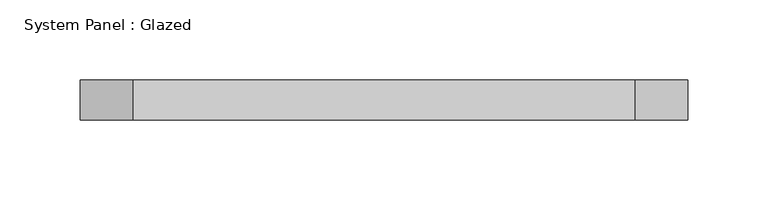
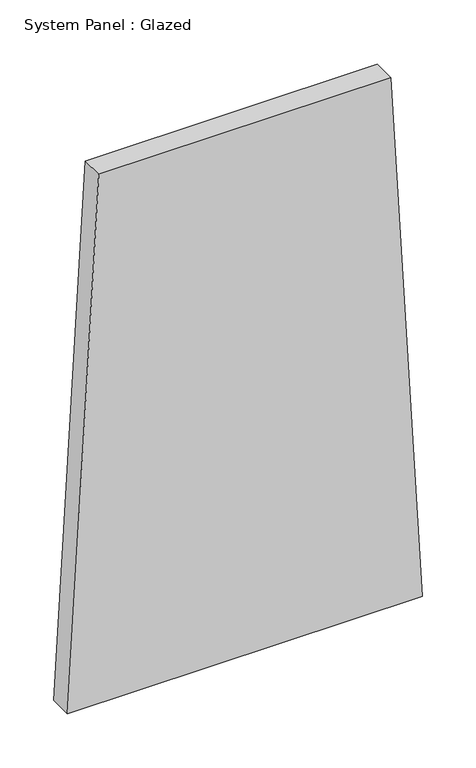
"""IFC4 building model written with IfcOpenShell, lengths in millimetres: plate geometry, System Panel : Glazed."""

import ifcopenshell
import ifcopenshell.guid

model = None  # the IFC model being written
_history = None  # IfcOwnerHistory: only IFC2X3 demands one
_inside = {}  # id of a spatial element -> (the spatial element, [elements in it])
_under = {}  # id of a project, library or spatial element -> (it, [spatial elements below it])
_declared = {}  # id of a project -> (the project, [libraries it declares])
_typed = {}  # id of a type object -> (the type object, [elements of that type])
_made_of = {}  # id of a material, layer set ... -> (it, [elements and type objects made of it])


def new_model(schema):
    """Start an empty IFC model of exactly this schema.

    Asked for "IFC4X3", IfcOpenShell would pick the latest addendum, in which some entities
    have other attributes; the version numbers below select the first issue.
    IFC2X3 requires an IfcOwnerHistory on every rooted entity: one is made here for all.
    """
    global model, _history
    if schema == "IFC4X3":
        model = ifcopenshell.file(schema_version=(4, 3, 0, 0))
    else:
        model = ifcopenshell.file(schema=schema)
    _inside.clear()
    _under.clear()
    _declared.clear()
    _typed.clear()
    _made_of.clear()
    _history = None
    if model.schema == "IFC2X3":
        org = make("IfcOrganization", Name="unknown")
        user = make(
            "IfcPersonAndOrganization",
            ThePerson=make("IfcPerson", FamilyName="unknown"),
            TheOrganization=org,
        )
        app = make(
            "IfcApplication",
            ApplicationDeveloper=org,
            Version="unknown",
            ApplicationFullName="unknown",
            ApplicationIdentifier="unknown",
        )
        _history = make(
            "IfcOwnerHistory",
            OwningUser=user,
            OwningApplication=app,
            ChangeAction="ADDED",
            CreationDate=0,
        )
    return model


def make(cls, **values):
    """One entity of the class cls with the attributes given. An attribute that is None is left unset."""
    return model.create_entity(
        cls, **{name: value for name, value in values.items() if value is not None}
    )


def rooted(cls, **values):
    """An entity with a GlobalId (a new one), such as an element, a storey or a relation."""
    return make(cls, GlobalId=ifcopenshell.guid.new(), OwnerHistory=_history, **values)


def si_unit(unit_type, name, prefix=None):
    """IfcSIUnit, for example si_unit("LENGTHUNIT", "METRE", prefix="MILLI")."""
    return make("IfcSIUnit", UnitType=unit_type, Prefix=prefix, Name=name)


def assignment(units):
    """IfcUnitAssignment: the units of a project."""
    return None if units is None else make("IfcUnitAssignment", Units=units)


def point(xyz):
    """IfcCartesianPoint."""
    return None if xyz is None else make("IfcCartesianPoint", Coordinates=xyz)


def direction(xyz):
    """IfcDirection."""
    return None if xyz is None else make("IfcDirection", DirectionRatios=xyz)


def frame(location, z_axis=None, x_axis=None):
    """IfcAxis2Placement3D, a coordinate frame: its origin and axes. An axis left out is left unset."""
    return make(
        "IfcAxis2Placement3D",
        Location=point(location),
        Axis=direction(z_axis),
        RefDirection=direction(x_axis),
    )


def origin():
    """The frame at (0, 0, 0) with its axes left unset."""
    return frame((0.0, 0.0, 0.0))


def place(relative_to, where):
    """IfcLocalPlacement: puts the frame where relative to a parent placement (None: the world)."""
    return make(
        "IfcLocalPlacement", PlacementRelTo=relative_to, RelativePlacement=where
    )


def context(
    kind, dimensions, precision=None, world=None, true_north=None, identifier=None
):
    """IfcGeometricRepresentationContext, for example the 3D "Model" context."""
    return make(
        "IfcGeometricRepresentationContext",
        ContextIdentifier=identifier,
        ContextType=kind,
        CoordinateSpaceDimension=dimensions,
        Precision=precision,
        WorldCoordinateSystem=world,
        TrueNorth=true_north,
    )


def project(units=None, contexts=None):
    """IfcProject with its units and contexts."""
    return rooted(
        "IfcProject",
        Name="project",
        RepresentationContexts=contexts,
        UnitsInContext=assignment(units),
    )


def spatial(cls, under=None, at=None, **own):
    """A site, building, storey or space (cls), placed at a placement, below another one or the project."""
    s = rooted(cls, ObjectPlacement=at, **own)
    if under is not None:
        _under.setdefault(under.id(), (under, []))[1].append(s)
    return s


def polyline(points):
    """IfcPolyline through the points."""
    return make("IfcPolyline", Points=[point(p) for p in points])


def outline(outer, holes=None, kind="AREA"):
    """IfcArbitraryClosedProfileDef: a profile drawn as a closed curve; with holes, ...WithVoids."""
    if holes is None:
        return make("IfcArbitraryClosedProfileDef", ProfileType=kind, OuterCurve=outer)
    return make(
        "IfcArbitraryProfileDefWithVoids",
        ProfileType=kind,
        OuterCurve=outer,
        InnerCurves=holes,
    )


def extrude(swept, where, along, depth):
    """IfcExtrudedAreaSolid: the profile swept, set in the frame where, extruded along a direction by depth."""
    return make(
        "IfcExtrudedAreaSolid",
        SweptArea=swept,
        Position=where,
        ExtrudedDirection=direction(along),
        Depth=depth,
    )


def shape(context_of_items, identifier, shape_type, items):
    """IfcShapeRepresentation: the items that make up one representation, for example the "Body"."""
    return make(
        "IfcShapeRepresentation",
        ContextOfItems=context_of_items,
        RepresentationIdentifier=identifier,
        RepresentationType=shape_type,
        Items=items,
    )


def source(mapping_origin, context_of_items, identifier, shape_type, items):
    """IfcRepresentationMap: a shape defined once, which mapped items show again and again."""
    return make(
        "IfcRepresentationMap",
        MappingOrigin=mapping_origin,
        MappedRepresentation=shape(context_of_items, identifier, shape_type, items),
    )


def transform(
    local_origin,
    x_axis=None,
    y_axis=None,
    z_axis=None,
    scale=None,
    scale2=None,
    scale3=None,
    uniform=True,
):
    """IfcCartesianTransformationOperator3D, or its non-uniform kind. x_axis, y_axis, z_axis: its Axis1, 2, 3."""
    if uniform:
        return make(
            "IfcCartesianTransformationOperator3D",
            Axis1=direction(x_axis),
            Axis2=direction(y_axis),
            LocalOrigin=point(local_origin),
            Scale=scale,
            Axis3=direction(z_axis),
        )
    return make(
        "IfcCartesianTransformationOperator3DnonUniform",
        Axis1=direction(x_axis),
        Axis2=direction(y_axis),
        LocalOrigin=point(local_origin),
        Scale=scale,
        Axis3=direction(z_axis),
        Scale2=scale2,
        Scale3=scale3,
    )


def mapped(mapping_source, mapping_target):
    """IfcMappedItem: shows the shape of a source again, moved by a transform."""
    return make(
        "IfcMappedItem", MappingSource=mapping_source, MappingTarget=mapping_target
    )


def made_of(thing, what):
    """Note that an element or type object is made of a material, layer set ...; save() writes the relation."""
    if what is not None:
        _made_of.setdefault(what.id(), (what, []))[1].append(thing)
    return thing


def element(
    cls,
    number,
    at=None,
    inside=None,
    cuts=None,
    type_object=None,
    material=None,
    context=None,
    identifier="Body",
    shape_type=None,
    held_by="IfcProductDefinitionShape",
    body=None,
    shapes=None,
    **own,
):
    """One element of the class cls, such as IfcWall. Its Tag is "e" and its number.

    at: its placement. inside: the storey or other place that contains it. cuts: it is an
    opening in that element (IfcRelVoidsElement). A single representation is given by context,
    identifier, shape_type and body (its items); several are given by shapes. held_by: the class
    of the entity that holds the representations. save() writes the other relations.
    """
    e = rooted(cls, Tag="e%d" % number, ObjectPlacement=at, **own)
    if body is not None:
        shapes = [shape(context, identifier, shape_type, body)]
    if shapes is not None:
        e.Representation = make(held_by, Representations=shapes)
    if inside is not None:
        _inside.setdefault(inside.id(), (inside, []))[1].append(e)
    if cuts is not None:
        rooted(
            "IfcRelVoidsElement", RelatingBuildingElement=cuts, RelatedOpeningElement=e
        )
    if type_object is not None:
        _typed.setdefault(type_object.id(), (type_object, []))[1].append(e)
    return made_of(e, material)


def aggregate(whole, parts):
    """IfcRelAggregates: a whole, such as a stair, and the parts it consists of."""
    return rooted("IfcRelAggregates", RelatingObject=whole, RelatedObjects=parts)


def save(model, path):
    """Write the relations noted so far, then the file.

    IfcRelAggregates (storeys below a building ...), IfcRelContainedInSpatialStructure (elements
    in a storey), IfcRelDefinesByType, IfcRelAssociatesMaterial and IfcRelDeclares: one each for
    every whole, place, type object, material and project.
    """
    for whole, parts in _under.values():
        aggregate(whole, parts)
    for where, things in _inside.values():
        rooted(
            "IfcRelContainedInSpatialStructure",
            RelatedElements=things,
            RelatingStructure=where,
        )
    for kind, things in _typed.values():
        rooted("IfcRelDefinesByType", RelatedObjects=things, RelatingType=kind)
    for what, things in _made_of.values():
        rooted("IfcRelAssociatesMaterial", RelatedObjects=things, RelatingMaterial=what)
    for by, libraries in _declared.values():
        rooted("IfcRelDeclares", RelatingContext=by, RelatedDefinitions=libraries)
    model.write(path)


def system_panel_glazed_b232b679(model_context):
    return source(origin(), model_context, "Body", "SweptSolid", [
        extrude(outline(polyline([(0.0, -189.8347626), (0.0, 189.8347626), (599.0714066, 156.4663674), (599.0714066, -156.4663674), (0.0, -189.8347626)])), frame((0.0, 24.5, 0.0), z_axis=(0.0, 1.0, 0.0), x_axis=(0.0, 0.0, 1.0)), (0.0, 0.0, 1.0), 25.0),
    ])


if __name__ == "__main__":
    model = new_model("IFC4")
    model_context = context("Model", 3, world=origin())
    ifc_project = project(units=[si_unit("LENGTHUNIT", "METRE", prefix="MILLI")], contexts=[model_context])
    site = spatial("IfcSite", under=ifc_project)
    building = spatial("IfcBuilding", under=site)
    placement = place(None, origin())
    system_panel_glazed_shape = system_panel_glazed_b232b679(model_context)
    element("IfcPlate", 1, ObjectType="System Panel : Glazed", at=placement, inside=building, context=model_context, shape_type="MappedRepresentation", body=[
        mapped(system_panel_glazed_shape, transform((0.0, 0.0, 0.0), x_axis=(1.0, 0.0, 0.0), y_axis=(0.0, 1.0, 0.0), z_axis=(0.0, 0.0, 1.0))),
    ])
    save(model, "model.ifc")
